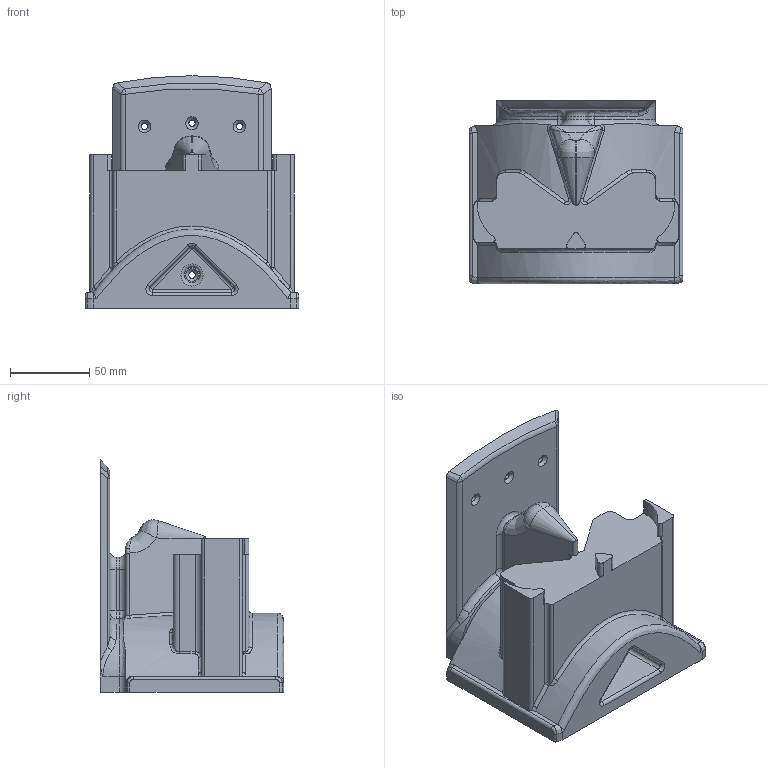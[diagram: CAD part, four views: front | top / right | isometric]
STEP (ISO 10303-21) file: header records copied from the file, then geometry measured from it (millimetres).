
FILE_DESCRIPTION(/* description */ (''),/* implementation_level */ '2;1');
FILE_NAME(/* name */ 'D:\Users\User\Documents\Inventor Projects\ViveHMDMount\BasePlateShort.stp',/* time_stamp */ '2016-06-07T03:24:27+02:00',/* author */ ('User'),/* organization */ (''),/* preprocessor_version */ 'ST-DEVELOPER v16.1',/* originating_system */ 'Autodesk Inventor 2016',/* authorisation */ '');
FILE_SCHEMA (('AUTOMOTIVE_DESIGN { 1 0 10303 214 3 1 1 }'));
Length unit declared in the file: millimetre
Products named in the file (1): BasePlateShort
Bounding box: 135 x 116 x 147 mm (x, y, z)
Volume: 831221 mm3; surface area: 101031.8 mm2
Topology: 1 solids, 1 shells, 198 faces, 503 edges, 316 vertices
Faces by surface type: bspline 69, cylinder 66, plane 44, torus 7, sphere 7, cone 5
Full cylindrical faces by diameter (mm): 4 x4, 10 x1
Entity records: 8499 total; most frequent: CARTESIAN_POINT 4154, ORIENTED_EDGE 948, DIRECTION 794, EDGE_CURVE 474, AXIS2_PLACEMENT_3D 315, VERTEX_POINT 290, EDGE_LOOP 218, FACE_OUTER_BOUND 198
